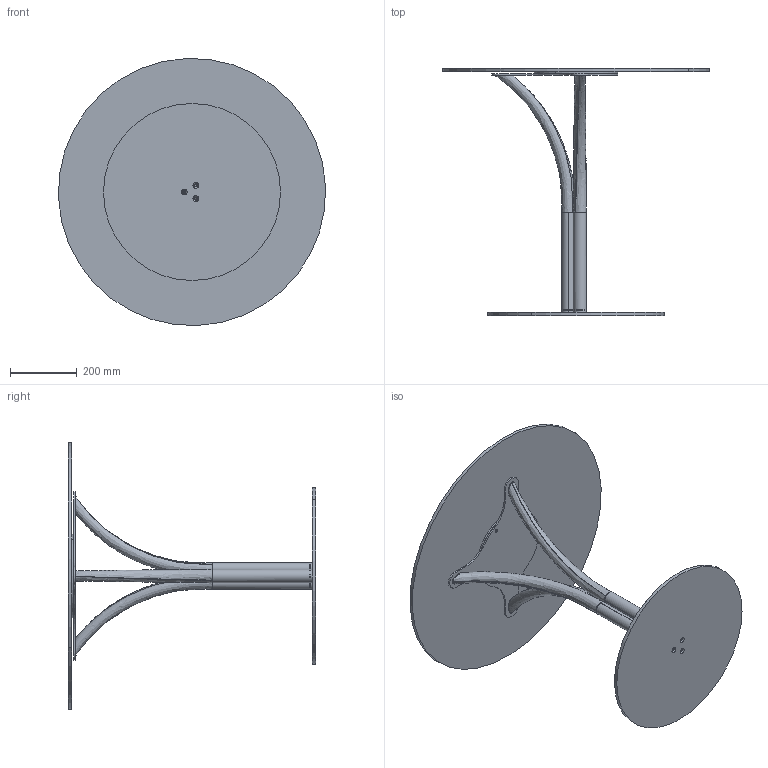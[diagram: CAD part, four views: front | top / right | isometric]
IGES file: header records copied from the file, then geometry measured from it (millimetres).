
Start section: SolidWorks IGES file using analytic representation for surfaces
Global section: file name: Y:\eforma\TECNICO\SOLIDWORKS\E-FORMA\5-TAVOLINI BISTRO\DODÒ\02 parts\DB20G.IGS; native system: SolidWorks 2022; preprocessor: SolidWorks 2022; author: eforma.tech; date: 240808.101614; units: millimetre
Bounding box: 799.2 x 741 x 799.2 mm (x, y, z)
Volume: 8415549.1 mm3; surface area: 2268663.8 mm2
Topology: 10 solids, 10 shells, 107 faces, 255 edges, 168 vertices
Faces by surface type: revolution 69, plane 26, bspline 12
